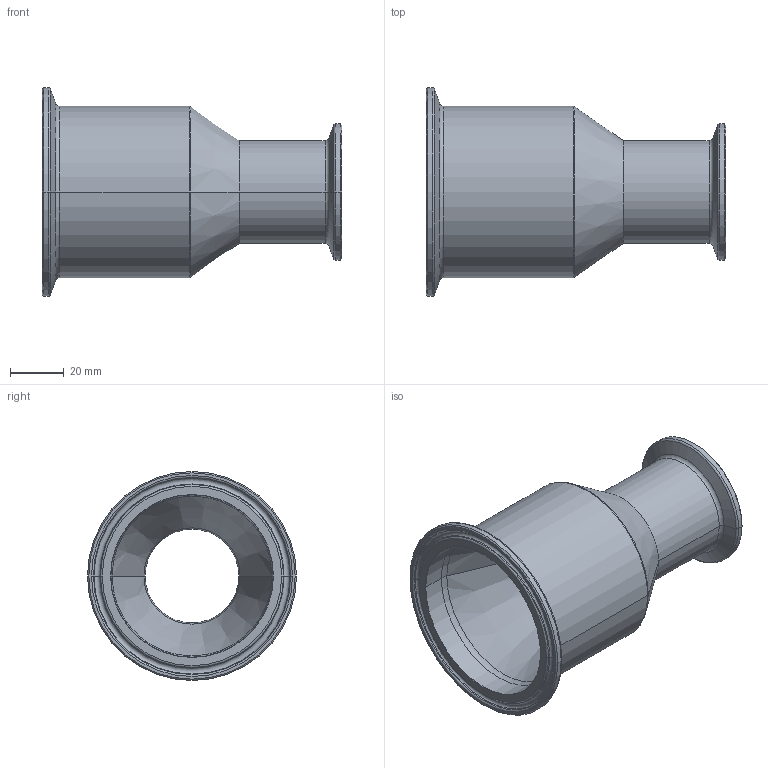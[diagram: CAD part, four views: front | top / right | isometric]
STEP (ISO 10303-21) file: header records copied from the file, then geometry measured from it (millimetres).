
FILE_DESCRIPTION (( 'STEP AP214' ), '1' );
FILE_NAME ('TEG31SCC6I2.5x1.5.STEP', '2016-05-29T14:34:31', ( 'eran' ), ( '' ), 'SwSTEP 2.0', 'SolidWorks 2016', '' );
FILE_SCHEMA (( 'AUTOMOTIVE_DESIGN' ));
Length unit declared in the file: millimetre
Products named in the file (1): TEG31SCC6I2.5x1.5
Bounding box: 111.12 x 77.5 x 77.5 mm (x, y, z)
Volume: 112366.7 mm3; surface area: 38766.3 mm2
Topology: 1 solids, 1 shells, 66 faces, 132 edges, 70 vertices
Faces by surface type: torus 26, cone 24, cylinder 12, plane 4
Entity records: 1738 total; most frequent: DIRECTION 362, CARTESIAN_POINT 269, ORIENTED_EDGE 264, AXIS2_PLACEMENT_3D 163, EDGE_CURVE 132, CIRCLE 96, VERTEX_POINT 70, EDGE_LOOP 70
